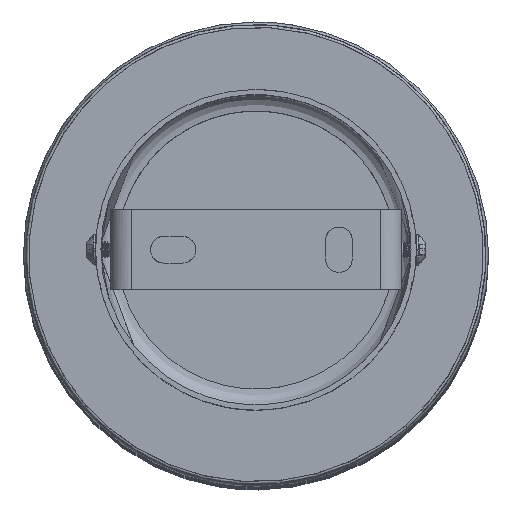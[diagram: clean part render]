
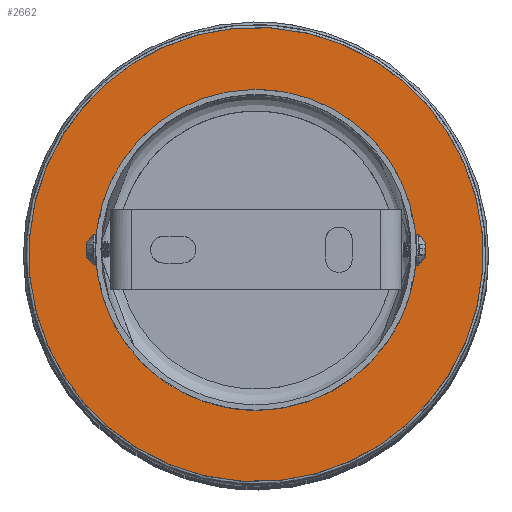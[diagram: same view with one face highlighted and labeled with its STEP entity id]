
A CAD part, top view. The second image highlights one B-rep face of the part: STEP entity #2662.
In plain terms, the highlighted planar face has unit normal (0, 0, 1).
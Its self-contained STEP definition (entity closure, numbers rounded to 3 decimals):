
#89=FACE_BOUND('',#7841,.T.);
#337=PLANE('',#42124);
#2662=ADVANCED_FACE('',(#5229,#89),#337,.T.);
#5229=FACE_OUTER_BOUND('',#7840,.T.);
#7840=EDGE_LOOP('',(#18192,#18193));
#7841=EDGE_LOOP('',(#18194,#18195));
#18192=ORIENTED_EDGE('',*,*,#26875,.F.);
#18193=ORIENTED_EDGE('',*,*,#26891,.T.);
#18194=ORIENTED_EDGE('',*,*,#26889,.T.);
#18195=ORIENTED_EDGE('',*,*,#26881,.F.);
#26875=EDGE_CURVE('',#38672,#38673,#34984,.T.);
#26881=EDGE_CURVE('',#38679,#38680,#34989,.T.);
#26889=EDGE_CURVE('',#38679,#38680,#34994,.T.);
#26891=EDGE_CURVE('',#38672,#38673,#34996,.T.);
#34984=(
BOUNDED_CURVE()
B_SPLINE_CURVE(2,(#302142,#302143,#302144,#302145,#302146),
 .UNSPECIFIED.,.F.,.F.)
B_SPLINE_CURVE_WITH_KNOTS((3,2,3),(0.,85.,170.),
 .UNSPECIFIED.)
CURVE()
GEOMETRIC_REPRESENTATION_ITEM()
RATIONAL_B_SPLINE_CURVE((1.,0.707,1.,0.707,1.))
REPRESENTATION_ITEM('')
);
#34989=(
BOUNDED_CURVE()
B_SPLINE_CURVE(2,(#302165,#302166,#302167,#302168,#302169),
 .UNSPECIFIED.,.F.,.F.)
B_SPLINE_CURVE_WITH_KNOTS((3,2,3),(0.,6.7,13.4),
 .UNSPECIFIED.)
CURVE()
GEOMETRIC_REPRESENTATION_ITEM()
RATIONAL_B_SPLINE_CURVE((1.,0.707,1.,0.707,1.))
REPRESENTATION_ITEM('')
);
#34994=(
BOUNDED_CURVE()
B_SPLINE_CURVE(2,(#302196,#302197,#302198,#302199,#302200),
 .UNSPECIFIED.,.F.,.F.)
B_SPLINE_CURVE_WITH_KNOTS((3,2,3),(-13.4,-6.7,0.),
 .UNSPECIFIED.)
CURVE()
GEOMETRIC_REPRESENTATION_ITEM()
RATIONAL_B_SPLINE_CURVE((1.,0.707,1.,0.707,1.))
REPRESENTATION_ITEM('')
);
#34996=(
BOUNDED_CURVE()
B_SPLINE_CURVE(2,(#302206,#302207,#302208,#302209,#302210),
 .UNSPECIFIED.,.F.,.F.)
B_SPLINE_CURVE_WITH_KNOTS((3,2,3),(-170.,-85.,
0.),.UNSPECIFIED.)
CURVE()
GEOMETRIC_REPRESENTATION_ITEM()
RATIONAL_B_SPLINE_CURVE((1.,0.707,1.,0.707,1.))
REPRESENTATION_ITEM('')
);
#38672=VERTEX_POINT('',#302121);
#38673=VERTEX_POINT('',#302122);
#38679=VERTEX_POINT('',#302128);
#38680=VERTEX_POINT('',#302129);
#42124=AXIS2_PLACEMENT_3D('',#301937,#42689,$);
#42689=DIRECTION('',(0.,0.,1.));
#301937=CARTESIAN_POINT('',(-71.968,-71.897,-99.725));
#302121=CARTESIAN_POINT('',(28.003,-31.899,-99.725));
#302122=CARTESIAN_POINT('',(-28.003,32.04,-99.725));
#302128=CARTESIAN_POINT('',(2.207,-2.449,-99.725));
#302129=CARTESIAN_POINT('',(-2.207,2.591,-99.725));
#302142=CARTESIAN_POINT('',(28.003,-31.899,-99.725));
#302143=CARTESIAN_POINT('',(-3.966,-59.902,-99.725));
#302144=CARTESIAN_POINT('',(-31.97,-27.933,-99.725));
#302145=CARTESIAN_POINT('',(-59.973,4.037,-99.725));
#302146=CARTESIAN_POINT('',(-28.003,32.04,-99.725));
#302165=CARTESIAN_POINT('',(2.207,-2.449,-99.725));
#302166=CARTESIAN_POINT('',(4.727,-0.242,-99.725));
#302167=CARTESIAN_POINT('',(2.52,2.278,-99.725));
#302168=CARTESIAN_POINT('',(0.313,4.798,-99.725));
#302169=CARTESIAN_POINT('',(-2.207,2.591,-99.725));
#302196=CARTESIAN_POINT('',(2.207,-2.449,-99.725));
#302197=CARTESIAN_POINT('',(-0.313,-4.657,-99.725));
#302198=CARTESIAN_POINT('',(-2.52,-2.137,-99.725));
#302199=CARTESIAN_POINT('',(-4.727,0.383,-99.725));
#302200=CARTESIAN_POINT('',(-2.207,2.591,-99.725));
#302206=CARTESIAN_POINT('',(28.003,-31.899,-99.725));
#302207=CARTESIAN_POINT('',(59.973,-3.895,-99.725));
#302208=CARTESIAN_POINT('',(31.97,28.074,-99.725));
#302209=CARTESIAN_POINT('',(3.966,60.044,-99.725));
#302210=CARTESIAN_POINT('',(-28.003,32.04,-99.725));
